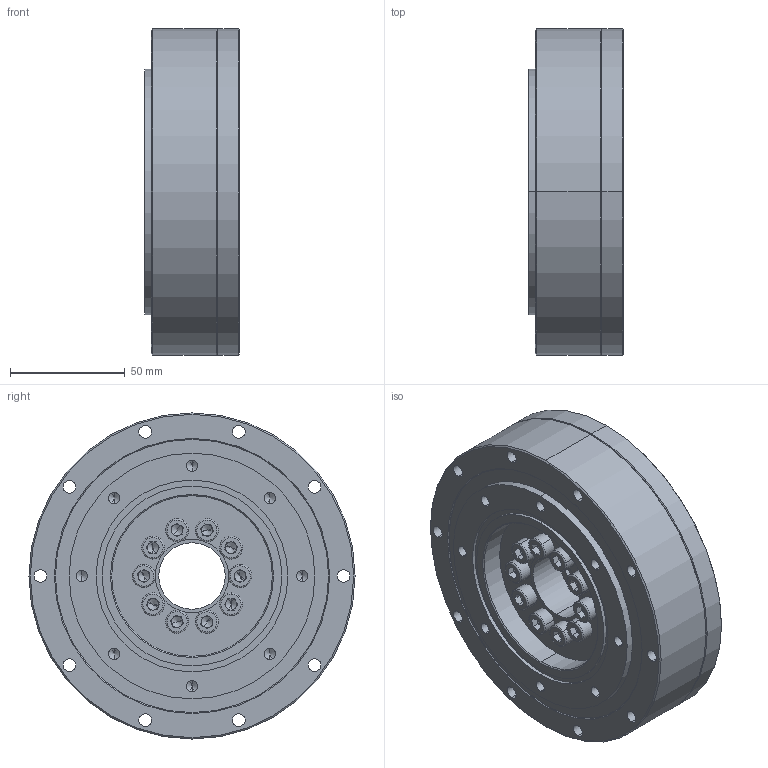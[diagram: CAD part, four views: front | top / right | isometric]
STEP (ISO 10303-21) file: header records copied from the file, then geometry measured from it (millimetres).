
FILE_DESCRIPTION (( 'STEP AP203' ), '1' );
FILE_NAME ('LCD-32-XXX-C-I.STEP', '2016-07-29T00:43:28', ( 'lenovo' ), ( 'Microsoft' ), 'SwSTEP 2.0', 'SolidWorks 2013', '' );
FILE_SCHEMA (( 'CONFIG_CONTROL_DESIGN' ));
Length unit declared in the file: millimetre
Products named in the file (14): ISO 7046-1 - M3 x 6 - Z --- 6C_ISO 7046-1 - M3 x 6 - Z --- 6C; DIN 912 M6 x 16 --- 16C_DIN 912 M6 x 16 --- 16C; RZC悵厥殤; DIN 912 M4 x 12 --- 12C_DIN 912 M4 x 12 --- 12C; LCD-32-XXX-P03; YF-32-I; RZC-32; DB-32-I; LCD-32-XXX-C-I; LCD-32-XXX-P01; RZC内外圈+钢球; LCD-32-XXX-P02; LCD-32-XXX-P04; LCD-32-XXX-P05
Assembly tree (29 placements, depth 3):
  LCD-32-XXX-C-I
    LCD-32-XXX-P03
    DB-32-I
    RZC-32
      RZC内外圈+钢球
      RZC悵厥殤
    LCD-32-XXX-P01
    LCD-32-XXX-P02
    LCD-32-XXX-P04
    LCD-32-XXX-P05
    ISO 7046-1 - M3 x 6 - Z --- 6C_ISO 7046-1 - M3 x 6 - Z --- 6C  x4
    DIN 912 M6 x 16 --- 16C_DIN 912 M6 x 16 --- 16C  x10
    DIN 912 M4 x 12 --- 12C_DIN 912 M4 x 12 --- 12C  x5
    YF-32-I
Bounding box: 41 x 142 x 142 mm (x, y, z)
Volume: 453372.5 mm3; surface area: 188567.5 mm2
Topology: 29 solids, 29 shells, 1156 faces, 3061 edges, 1886 vertices
Faces by surface type: cylinder 411, plane 411, cone 180, torus 108, sphere 46
Entity records: 25559 total; most frequent: CARTESIAN_POINT 5381, DIRECTION 4140, ORIENTED_EDGE 3710, EDGE_CURVE 1855, AXIS2_PLACEMENT_3D 1814, VERTEX_POINT 1203, CIRCLE 1099, EDGE_LOOP 894
